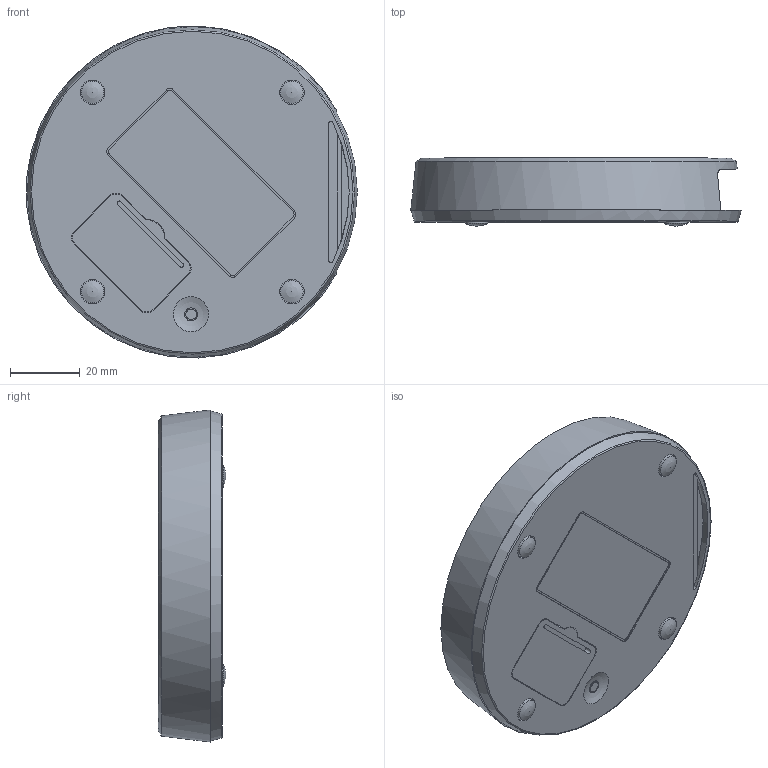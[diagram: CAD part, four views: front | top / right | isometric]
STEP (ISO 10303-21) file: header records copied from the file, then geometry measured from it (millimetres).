
FILE_DESCRIPTION( ( 'STEP AP203' ), '1' );
FILE_NAME( 'p:/temp/worker_17/temp/exporttempdir_752_751_A4snZ/format_4/ZB0929.stp', '2021-05-17T07:11:36', ( 'License CC BY-ND 4.0' ), ( 'CADENAS' ), ' ', 'PARTsolutions', ' ' );
FILE_SCHEMA( ( 'CONFIG_CONTROL_DESIGN' ) );
Length unit declared in the file: millimetre
Products named in the file (1): _ZB0929
Bounding box: 94.52 x 19.39 x 94.93 mm (x, y, z)
Volume: 119206.4 mm3; surface area: 21729.9 mm2
Topology: 1 solids, 1 shells, 191 faces, 501 edges, 333 vertices
Faces by surface type: plane 114, cylinder 65, sphere 6, cone 5, torus 1
Full cylindrical faces by diameter (mm): 2 x1, 3 x2, 3.7 x1, 6 x1, 6.4 x5, 7.04 x4, 87 x1, 87.4 x1
Entity records: 5806 total; most frequent: CARTESIAN_POINT 1058, DIRECTION 984, ORIENTED_EDGE 922, EDGE_CURVE 461, AXIS2_PLACEMENT_3D 336, VERTEX_POINT 324, LINE 312, VECTOR 312
